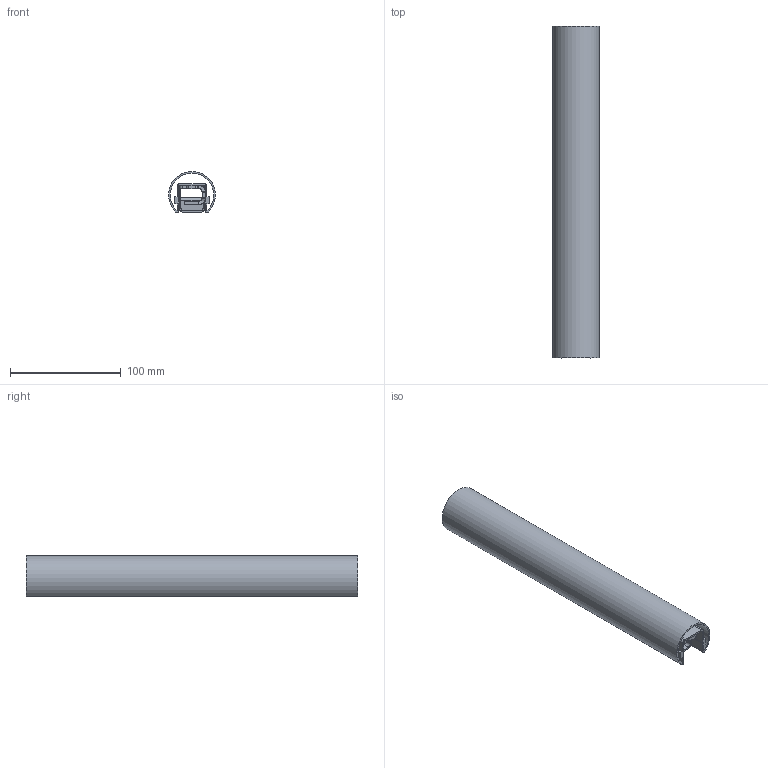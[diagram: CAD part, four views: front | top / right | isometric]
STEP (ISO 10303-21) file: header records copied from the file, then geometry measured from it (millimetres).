
FILE_DESCRIPTION(/* description */ ('STEP AP214'),/* implementation_level */ '2;1');
FILE_NAME(/* name */ '66fd4a587202d813c79aaa5d',/* time_stamp */ '2024-10-02T13:27:53Z',/* author */ (''),/* organization */ (''),/* preprocessor_version */ 'ST-DEVELOPER v20',/* originating_system */ ' ',/* authorisation */ ' ');
FILE_SCHEMA (('AUTOMOTIVE_DESIGN {1 0 10303 214 3 1 1}'));
Length unit declared in the file: metre
Products named in the file (5): ULTRA-SAFE-42.4-Lilly-sym-asym; A001148; A000418_k; Lilly vereinfacht; A001179
Assembly tree (4 placements, depth 2):
  ULTRA-SAFE-42.4-Lilly-sym-asym
    A001148
    A000418_k
    Lilly vereinfacht
    A001179
Bounding box: 42.37 x 300 x 37 mm (x, y, z)
Volume: 164683.3 mm3; surface area: 143022.7 mm2
Topology: 4 solids, 4 shells, 180 faces, 474 edges, 305 vertices
Faces by surface type: plane 95, cylinder 77, bspline 8
Full cylindrical faces by diameter (mm): 4 x2, 4.2 x4, 5 x3, 6.6 x2
Entity records: 6880 total; most frequent: CARTESIAN_POINT 2307, DIRECTION 932, ORIENTED_EDGE 912, EDGE_CURVE 456, AXIS2_PLACEMENT_3D 315, LINE 302, VECTOR 302, VERTEX_POINT 298
